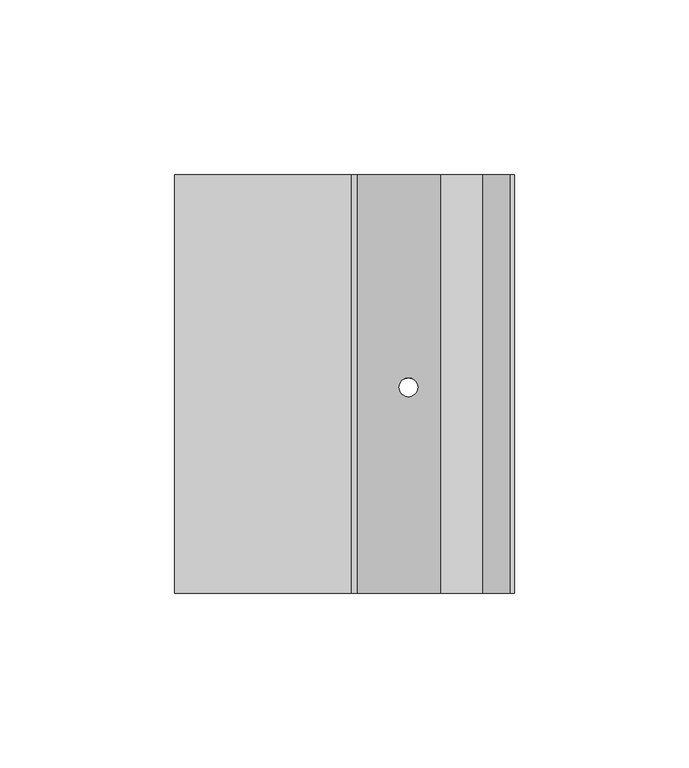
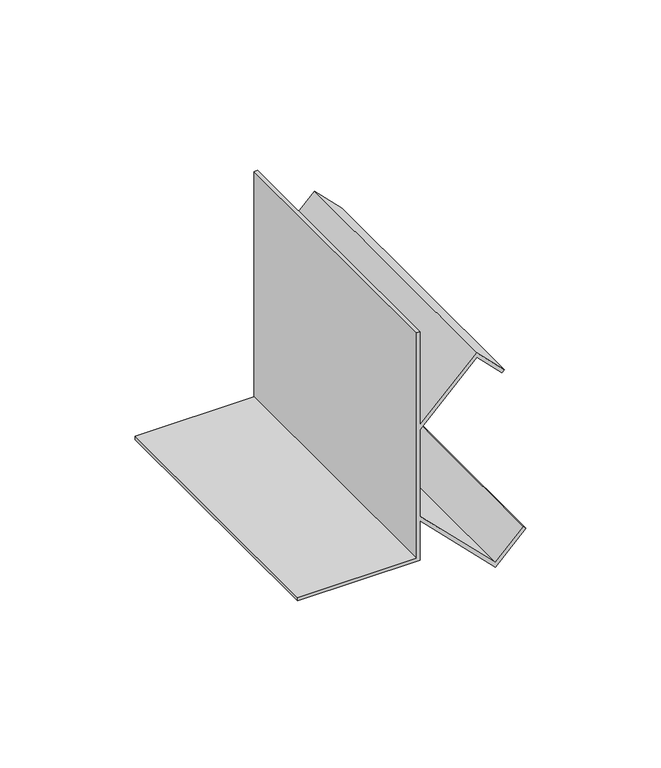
"""IFC4 building model written with IfcOpenShell, lengths in millimetres: proxy geometry, Mechanical Fittings & Accessories29 : Mechanical Fittings & Accessories."""

import ifcopenshell
import ifcopenshell.guid

model = None  # the IFC model being written
_history = None  # IfcOwnerHistory: only IFC2X3 demands one
_inside = {}  # id of a spatial element -> (the spatial element, [elements in it])
_under = {}  # id of a project, library or spatial element -> (it, [spatial elements below it])
_declared = {}  # id of a project -> (the project, [libraries it declares])
_typed = {}  # id of a type object -> (the type object, [elements of that type])
_made_of = {}  # id of a material, layer set ... -> (it, [elements and type objects made of it])


def new_model(schema):
    """Start an empty IFC model of exactly this schema.

    Asked for "IFC4X3", IfcOpenShell would pick the latest addendum, in which some entities
    have other attributes; the version numbers below select the first issue.
    IFC2X3 requires an IfcOwnerHistory on every rooted entity: one is made here for all.
    """
    global model, _history
    if schema == "IFC4X3":
        model = ifcopenshell.file(schema_version=(4, 3, 0, 0))
    else:
        model = ifcopenshell.file(schema=schema)
    _inside.clear()
    _under.clear()
    _declared.clear()
    _typed.clear()
    _made_of.clear()
    _history = None
    if model.schema == "IFC2X3":
        org = make("IfcOrganization", Name="unknown")
        user = make(
            "IfcPersonAndOrganization",
            ThePerson=make("IfcPerson", FamilyName="unknown"),
            TheOrganization=org,
        )
        app = make(
            "IfcApplication",
            ApplicationDeveloper=org,
            Version="unknown",
            ApplicationFullName="unknown",
            ApplicationIdentifier="unknown",
        )
        _history = make(
            "IfcOwnerHistory",
            OwningUser=user,
            OwningApplication=app,
            ChangeAction="ADDED",
            CreationDate=0,
        )
    return model


def make(cls, **values):
    """One entity of the class cls with the attributes given. An attribute that is None is left unset."""
    return model.create_entity(
        cls, **{name: value for name, value in values.items() if value is not None}
    )


def rooted(cls, **values):
    """An entity with a GlobalId (a new one), such as an element, a storey or a relation."""
    return make(cls, GlobalId=ifcopenshell.guid.new(), OwnerHistory=_history, **values)


def si_unit(unit_type, name, prefix=None):
    """IfcSIUnit, for example si_unit("LENGTHUNIT", "METRE", prefix="MILLI")."""
    return make("IfcSIUnit", UnitType=unit_type, Prefix=prefix, Name=name)


def assignment(units):
    """IfcUnitAssignment: the units of a project."""
    return None if units is None else make("IfcUnitAssignment", Units=units)


def point(xyz):
    """IfcCartesianPoint."""
    return None if xyz is None else make("IfcCartesianPoint", Coordinates=xyz)


def direction(xyz):
    """IfcDirection."""
    return None if xyz is None else make("IfcDirection", DirectionRatios=xyz)


def frame(location, z_axis=None, x_axis=None):
    """IfcAxis2Placement3D, a coordinate frame: its origin and axes. An axis left out is left unset."""
    return make(
        "IfcAxis2Placement3D",
        Location=point(location),
        Axis=direction(z_axis),
        RefDirection=direction(x_axis),
    )


def origin():
    """The frame at (0, 0, 0) with its axes left unset."""
    return frame((0.0, 0.0, 0.0))


def place(relative_to, where):
    """IfcLocalPlacement: puts the frame where relative to a parent placement (None: the world)."""
    return make(
        "IfcLocalPlacement", PlacementRelTo=relative_to, RelativePlacement=where
    )


def context(
    kind, dimensions, precision=None, world=None, true_north=None, identifier=None
):
    """IfcGeometricRepresentationContext, for example the 3D "Model" context."""
    return make(
        "IfcGeometricRepresentationContext",
        ContextIdentifier=identifier,
        ContextType=kind,
        CoordinateSpaceDimension=dimensions,
        Precision=precision,
        WorldCoordinateSystem=world,
        TrueNorth=true_north,
    )


def project(units=None, contexts=None):
    """IfcProject with its units and contexts."""
    return rooted(
        "IfcProject",
        Name="project",
        RepresentationContexts=contexts,
        UnitsInContext=assignment(units),
    )


def spatial(cls, under=None, at=None, **own):
    """A site, building, storey or space (cls), placed at a placement, below another one or the project."""
    s = rooted(cls, ObjectPlacement=at, **own)
    if under is not None:
        _under.setdefault(under.id(), (under, []))[1].append(s)
    return s


def polyline(points):
    """IfcPolyline through the points."""
    return make("IfcPolyline", Points=[point(p) for p in points])


def ellipse_curve(where, semi_axis1, semi_axis2):
    """IfcEllipse in the frame where."""
    return make(
        "IfcEllipse", Position=where, SemiAxis1=semi_axis1, SemiAxis2=semi_axis2
    )


def shape(context_of_items, identifier, shape_type, items):
    """IfcShapeRepresentation: the items that make up one representation, for example the "Body"."""
    return make(
        "IfcShapeRepresentation",
        ContextOfItems=context_of_items,
        RepresentationIdentifier=identifier,
        RepresentationType=shape_type,
        Items=items,
    )


def source(mapping_origin, context_of_items, identifier, shape_type, items):
    """IfcRepresentationMap: a shape defined once, which mapped items show again and again."""
    return make(
        "IfcRepresentationMap",
        MappingOrigin=mapping_origin,
        MappedRepresentation=shape(context_of_items, identifier, shape_type, items),
    )


def transform(
    local_origin,
    x_axis=None,
    y_axis=None,
    z_axis=None,
    scale=None,
    scale2=None,
    scale3=None,
    uniform=True,
):
    """IfcCartesianTransformationOperator3D, or its non-uniform kind. x_axis, y_axis, z_axis: its Axis1, 2, 3."""
    if uniform:
        return make(
            "IfcCartesianTransformationOperator3D",
            Axis1=direction(x_axis),
            Axis2=direction(y_axis),
            LocalOrigin=point(local_origin),
            Scale=scale,
            Axis3=direction(z_axis),
        )
    return make(
        "IfcCartesianTransformationOperator3DnonUniform",
        Axis1=direction(x_axis),
        Axis2=direction(y_axis),
        LocalOrigin=point(local_origin),
        Scale=scale,
        Axis3=direction(z_axis),
        Scale2=scale2,
        Scale3=scale3,
    )


def mapped(mapping_source, mapping_target):
    """IfcMappedItem: shows the shape of a source again, moved by a transform."""
    return make(
        "IfcMappedItem", MappingSource=mapping_source, MappingTarget=mapping_target
    )


def made_of(thing, what):
    """Note that an element or type object is made of a material, layer set ...; save() writes the relation."""
    if what is not None:
        _made_of.setdefault(what.id(), (what, []))[1].append(thing)
    return thing


def element(
    cls,
    number,
    at=None,
    inside=None,
    cuts=None,
    type_object=None,
    material=None,
    context=None,
    identifier="Body",
    shape_type=None,
    held_by="IfcProductDefinitionShape",
    body=None,
    shapes=None,
    **own,
):
    """One element of the class cls, such as IfcWall. Its Tag is "e" and its number.

    at: its placement. inside: the storey or other place that contains it. cuts: it is an
    opening in that element (IfcRelVoidsElement). A single representation is given by context,
    identifier, shape_type and body (its items); several are given by shapes. held_by: the class
    of the entity that holds the representations. save() writes the other relations.
    """
    e = rooted(cls, Tag="e%d" % number, ObjectPlacement=at, **own)
    if body is not None:
        shapes = [shape(context, identifier, shape_type, body)]
    if shapes is not None:
        e.Representation = make(held_by, Representations=shapes)
    if inside is not None:
        _inside.setdefault(inside.id(), (inside, []))[1].append(e)
    if cuts is not None:
        rooted(
            "IfcRelVoidsElement", RelatingBuildingElement=cuts, RelatedOpeningElement=e
        )
    if type_object is not None:
        _typed.setdefault(type_object.id(), (type_object, []))[1].append(e)
    return made_of(e, material)


def aggregate(whole, parts):
    """IfcRelAggregates: a whole, such as a stair, and the parts it consists of."""
    return rooted("IfcRelAggregates", RelatingObject=whole, RelatedObjects=parts)


def save(model, path):
    """Write the relations noted so far, then the file.

    IfcRelAggregates (storeys below a building ...), IfcRelContainedInSpatialStructure (elements
    in a storey), IfcRelDefinesByType, IfcRelAssociatesMaterial and IfcRelDeclares: one each for
    every whole, place, type object, material and project.
    """
    for whole, parts in _under.values():
        aggregate(whole, parts)
    for where, things in _inside.values():
        rooted(
            "IfcRelContainedInSpatialStructure",
            RelatedElements=things,
            RelatingStructure=where,
        )
    for kind, things in _typed.values():
        rooted("IfcRelDefinesByType", RelatedObjects=things, RelatingType=kind)
    for what, things in _made_of.values():
        rooted("IfcRelAssociatesMaterial", RelatedObjects=things, RelatingMaterial=what)
    for by, libraries in _declared.values():
        rooted("IfcRelDeclares", RelatingContext=by, RelatedDefinitions=libraries)
    model.write(path)


def plane_surface(at):
    """IfcPlane: the flat surface through the origin of the frame at, square to its z axis."""
    return make("IfcPlane", Position=at)


def revolved_surface(curve, axis_point, axis_direction):
    """IfcSurfaceOfRevolution: the curve turned about the line through axis_point along axis_direction."""
    return make(
        "IfcSurfaceOfRevolution",
        SweptCurve=make("IfcArbitraryOpenProfileDef", ProfileType="CURVE", Curve=curve),
        AxisPosition=make("IfcAxis1Placement", Location=point(axis_point), Axis=direction(axis_direction)),
    )


def advanced_brep(points, edges, surfaces, faces):
    """IfcAdvancedBrep: a solid bounded by faces that lie on surfaces and meet in shared edges.

    An edge is (start, end): straight between two places in points (the first is 0);
    or (start, end, curve); or (start, end, curve, False) where it runs against its curve.
    A face is (place in surfaces, loops), or (place, loops, False) where it looks against
    its surface's normal. A loop lists edges by number (the first is 1), with a minus sign
    where the edge is run from its end to its start. The first loop is the outer one.
    """
    corners = [point(p) for p in points]
    vertices = [make("IfcVertexPoint", VertexGeometry=c) for c in corners]
    made = []
    for start, end, *more in edges:
        made.append(
            make(
                "IfcEdgeCurve",
                EdgeStart=vertices[start],
                EdgeEnd=vertices[end],
                EdgeGeometry=more[0] if more else make("IfcPolyline", Points=[corners[start], corners[end]]),
                SameSense=more[1] if len(more) > 1 else True,
            )
        )
    hull = []
    for where, loops, *sense in faces:
        bounds = []
        for j, loop in enumerate(loops):
            ring = [make("IfcOrientedEdge", EdgeElement=made[abs(k) - 1], Orientation=k > 0) for k in loop]
            bounds.append(
                make(
                    "IfcFaceOuterBound" if j == 0 else "IfcFaceBound",
                    Bound=make("IfcEdgeLoop", EdgeList=ring),
                    Orientation=True,
                )
            )
        hull.append(make("IfcAdvancedFace", Bounds=bounds, FaceSurface=surfaces[where], SameSense=sense[0] if sense else True))
    return make("IfcAdvancedBrep", Outer=make("IfcClosedShell", CfsFaces=hull))


def generic_models_f2a02704(model_context):
    return source(origin(), model_context, "Body", "AdvancedBrep", [
        advanced_brep(
        [(-13439.8639562, 10780.4963986, 4114.8), (-13490.6639562, 10780.4963986, 4114.8), (-13490.6639562, 10780.4963986, 4113.3117188), (-13438.375675, 10780.4963986, 4113.3117188), (-13438.375675, 10780.4963986, 4131.1383509), (-13406.265914, 10780.4963986, 4099.0285899), (-13393.2869427, 10780.4963986, 4112.0075612), (-13394.3393164, 10780.4963986, 4113.059935), (-13406.265914, 10780.4963986, 4101.1333374), (-13438.375675, 10780.4963986, 4133.2430984), (-13438.375675, 10780.4963986, 4172.2761118), (-13414.203414, 10780.4963986, 4196.4483729), (-13403.4674414, 10780.4963986, 4185.7124003), (-13402.4150677, 10780.4963986, 4186.7647741), (-13414.203414, 10780.4963986, 4198.5531204), (-13438.375675, 10780.4963986, 4174.3808594), (-13438.375675, 10780.4963986, 4216.4), (-13439.8639562, 10780.4963986, 4216.4), (-13439.8639562, 10900.4645457, 4114.8), (-13439.8639562, 10900.4645457, 4216.4), (-13438.375675, 10900.4645457, 4216.4), (-13438.375675, 10900.4645457, 4174.3808594), (-13414.203414, 10900.4645457, 4198.5531204), (-13402.4150677, 10900.4645457, 4186.7647741), (-13403.4674414, 10900.4645457, 4185.7124003), (-13414.203414, 10900.4645457, 4196.4483729), (-13438.375675, 10900.4645457, 4172.2761118), (-13438.375675, 10900.4645457, 4133.2430984), (-13406.265914, 10900.4645457, 4101.1333374), (-13394.3393164, 10900.4645457, 4113.059935), (-13393.2869427, 10900.4645457, 4112.0075612), (-13406.265914, 10900.4645457, 4099.0285899), (-13438.375675, 10900.4645457, 4131.1383509), (-13438.375675, 10900.4645457, 4113.3117188), (-13490.6639562, 10900.4645457, 4113.3117188), (-13490.6639562, 10900.4645457, 4114.8), (-13426.2617646, 10839.5191481, 4119.0244406), (-13420.9223978, 10839.5191481, 4113.6850737), (-13420.9223978, 10839.5191481, 4115.7898213), (-13426.2617646, 10839.5191481, 4121.1291881), (-13426.2617646, 10839.5191481, 4184.3900222), (-13420.9223978, 10839.5191481, 4189.729389), (-13420.9223978, 10839.5191481, 4191.8341365), (-13426.2617646, 10839.5191481, 4186.4947697)],
        [
            (0, 1),
            (1, 2),
            (2, 3),
            (3, 4),
            (4, 5),
            (5, 6),
            (6, 7),
            (7, 8),
            (8, 9),
            (9, 10),
            (10, 11),
            (11, 12),
            (12, 13),
            (13, 14),
            (14, 15),
            (15, 16),
            (16, 17),
            (17, 0),
            (18, 19),
            (19, 20),
            (20, 21),
            (21, 22),
            (22, 23),
            (23, 24),
            (24, 25),
            (25, 26),
            (26, 27),
            (27, 28),
            (28, 29),
            (29, 30),
            (30, 31),
            (31, 32),
            (32, 33),
            (33, 34),
            (34, 35),
            (35, 18),
            (0, 18),
            (35, 1),
            (34, 2),
            (33, 3),
            (32, 4),
            (31, 5),
            (36, 37, ellipse_curve(frame((-13423.5920812, 10839.5191481, 4116.3547571), z_axis=(0.7071067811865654, 0.0, 0.7071067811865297), x_axis=(-0.7071067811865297, 0.0, 0.7071067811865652)), 3.7755025, 2.6696834)),
            (37, 36, ellipse_curve(frame((-13423.5920812, 10839.5191481, 4116.3547571), z_axis=(0.7071067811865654, 0.0, 0.7071067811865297), x_axis=(-0.7071067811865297, 0.0, 0.7071067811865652)), 3.7755025, 2.6696834)),
            (30, 6),
            (29, 7),
            (28, 8),
            (27, 9),
            (38, 39, ellipse_curve(frame((-13423.5920812, 10839.5191481, 4118.4595047), z_axis=(-0.7071067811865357, 0.0, -0.7071067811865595), x_axis=(-0.7071067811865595, 0.0, 0.7071067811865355)), 3.7755025, 2.6696834)),
            (39, 38, ellipse_curve(frame((-13423.5920812, 10839.5191481, 4118.4595047), z_axis=(-0.7071067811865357, 0.0, -0.7071067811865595), x_axis=(-0.7071067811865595, 0.0, 0.7071067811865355)), 3.7755025, 2.6696834)),
            (26, 10),
            (25, 11),
            (40, 41, ellipse_curve(frame((-13423.5920812, 10839.5191481, 4187.0597056), z_axis=(-0.7071067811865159, 0.0, 0.7071067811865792), x_axis=(0.7071067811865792, 0.0, 0.7071067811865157)), 3.7755025, 2.6696834)),
            (41, 40, ellipse_curve(frame((-13423.5920812, 10839.5191481, 4187.0597056), z_axis=(-0.7071067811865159, 0.0, 0.7071067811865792), x_axis=(0.7071067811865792, 0.0, 0.7071067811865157)), 3.7755025, 2.6696834)),
            (24, 12),
            (23, 13),
            (22, 14),
            (21, 15),
            (42, 43, ellipse_curve(frame((-13423.5920812, 10839.5191481, 4189.1644531), z_axis=(0.7071067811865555, 0.0, -0.7071067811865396), x_axis=(0.7071067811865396, 0.0, 0.7071067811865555)), 3.7755025, 2.6696834)),
            (43, 42, ellipse_curve(frame((-13423.5920812, 10839.5191481, 4189.1644531), z_axis=(0.7071067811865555, 0.0, -0.7071067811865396), x_axis=(0.7071067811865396, 0.0, 0.7071067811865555)), 3.7755025, 2.6696834)),
            (20, 16),
            (19, 17),
            (36, 39),
            (38, 37),
            (40, 43),
            (42, 41),
        ],
        [
            plane_surface(frame((-13490.6639562, 10780.4963986, 4114.8), z_axis=(0.0, -1.0, 0.0), x_axis=(-1.0, 0.0, 0.0))),
            plane_surface(frame((-13490.6639562, 10900.4645457, 4114.8), z_axis=(0.0, 1.0, 0.0), x_axis=(1.0, 0.0, 0.0))),
            plane_surface(frame((-13439.8639562, 10780.4963986, 4114.8), z_axis=(0.0, 0.0, 1.0), x_axis=(0.0, 1.0, 0.0))),
            plane_surface(frame((-13490.6639562, 10780.4963986, 4114.8), z_axis=(-1.0, 0.0, 0.0), x_axis=(0.0, 1.0, 0.0))),
            plane_surface(frame((-13490.6639562, 10780.4963986, 4113.3117188), z_axis=(0.0, 0.0, -1.0), x_axis=(0.0, 1.0, 0.0))),
            plane_surface(frame((-13438.375675, 10780.4963986, 4113.3117188), z_axis=(1.0, 0.0, 0.0), x_axis=(0.0, 1.0, 0.0))),
            plane_surface(frame((-13438.375675, 10780.4963986, 4131.1383509), z_axis=(-0.7071067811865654, 0.0, -0.7071067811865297), x_axis=(0.0, 1.0, 0.0))),
            plane_surface(frame((-13406.265914, 10780.4963986, 4099.0285899), z_axis=(0.7071067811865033, 0.0, -0.7071067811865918), x_axis=(0.0, 1.0, 0.0))),
            plane_surface(frame((-13393.2869427, 10780.4963986, 4112.0075612), z_axis=(0.7071067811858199, 0.0, 0.7071067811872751), x_axis=(0.0, 1.0, 0.0))),
            plane_surface(frame((-13394.3393164, 10780.4963986, 4113.059935), z_axis=(-0.7071067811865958, 0.0, 0.7071067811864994), x_axis=(0.0, 1.0, 0.0))),
            plane_surface(frame((-13406.265914, 10780.4963986, 4101.1333374), z_axis=(0.7071067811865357, 0.0, 0.7071067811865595), x_axis=(0.0, 1.0, 0.0))),
            plane_surface(frame((-13438.375675, 10780.4963986, 4133.2430984), z_axis=(1.0, 0.0, 0.0), x_axis=(0.0, 1.0, 0.0))),
            plane_surface(frame((-13438.375675, 10780.4963986, 4172.2761118), z_axis=(0.7071067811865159, 0.0, -0.7071067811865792), x_axis=(0.0, 1.0, 0.0))),
            plane_surface(frame((-13414.203414, 10780.4963986, 4196.4483729), z_axis=(-0.7071067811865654, 0.0, -0.7071067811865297), x_axis=(0.0, 1.0, 0.0))),
            plane_surface(frame((-13403.4674414, 10780.4963986, 4185.7124003), z_axis=(0.7071067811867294, 0.0, -0.7071067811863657), x_axis=(0.0, 1.0, 0.0))),
            plane_surface(frame((-13402.4150677, 10780.4963986, 4186.7647741), z_axis=(0.7071067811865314, 0.0, 0.7071067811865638), x_axis=(0.0, 1.0, 0.0))),
            plane_surface(frame((-13414.203414, 10780.4963986, 4198.5531204), z_axis=(-0.7071067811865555, 0.0, 0.7071067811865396), x_axis=(0.0, 1.0, 0.0))),
            plane_surface(frame((-13438.375675, 10780.4963986, 4174.3808594), z_axis=(1.0, 0.0, 0.0), x_axis=(0.0, 1.0, 0.0))),
            plane_surface(frame((-13438.375675, 10780.4963986, 4216.4), z_axis=(0.0, 0.0, 1.0), x_axis=(0.0, 1.0, 0.0))),
            plane_surface(frame((-13439.8639562, 10780.4963986, 4216.4), z_axis=(-1.0, 0.0, 0.0), x_axis=(0.0, 1.0, 0.0))),
            revolved_surface(polyline([(-13420.9223978, 10839.5191481, 4121.129188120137), (-13420.9223978, 10839.5191481, 4113.685073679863)]), (-13423.5920812, 10839.5191481, 4097.2034211), (0.0, 0.0, 1.0)),
            revolved_surface(polyline([(-13420.9223978, 10839.5191481, 4191.834136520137), (-13420.9223978, 10839.5191481, 4184.390022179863)]), (-13423.5920812, 10839.5191481, 4097.2034211), (0.0, 0.0, 1.0)),
        ],
        [
            (0, [[1, 2, 3, 4, 5, 6, 7, 8, 9, 10, 11, 12, 13, 14, 15, 16, 17, 18]]),
            (1, [[19, 20, 21, 22, 23, 24, 25, 26, 27, 28, 29, 30, 31, 32, 33, 34, 35, 36]]),
            (2, [[-1, 37, -36, 38]]),
            (3, [[-2, -38, -35, 39]]),
            (4, [[-3, -39, -34, 40]]),
            (5, [[-4, -40, -33, 41]]),
            (6, [[-5, -41, -32, 42], [43, 44]]),
            (7, [[-6, -42, -31, 45]]),
            (8, [[-7, -45, -30, 46]]),
            (9, [[-8, -46, -29, 47]]),
            (10, [[-9, -47, -28, 48], [49, 50]]),
            (11, [[-10, -48, -27, 51]]),
            (12, [[-11, -51, -26, 52], [53, 54]]),
            (13, [[-12, -52, -25, 55]]),
            (14, [[-13, -55, -24, 56]]),
            (15, [[-14, -56, -23, 57]]),
            (16, [[-15, -57, -22, 58], [59, 60]]),
            (17, [[-16, -58, -21, 61]]),
            (18, [[-17, -61, -20, 62]]),
            (19, [[-18, -62, -19, -37]]),
            (20, [[63, -49, 64, -43]]),
            (21, [[65, -59, 66, -53]]),
            (20, [[-63, -44, -64, -50]]),
            (21, [[-65, -54, -66, -60]]),
        ],
    ),
    ])


if __name__ == "__main__":
    model = new_model("IFC4")
    model_context = context("Model", 3, world=origin())
    ifc_project = project(units=[si_unit("LENGTHUNIT", "METRE", prefix="MILLI")], contexts=[model_context])
    site = spatial("IfcSite", under=ifc_project)
    building = spatial("IfcBuilding", under=site)
    placement = place(None, origin())
    generic_models_shape = generic_models_f2a02704(model_context)
    element("IfcBuildingElementProxy", 1, Name="Mechanical Fittings & Accessories29 : Mechanical Fittings & Accessories", ObjectType="Mechanical Fittings & Accessories29 : Mechanical Fittings & Accessories", at=placement, inside=building, context=model_context, shape_type="MappedRepresentation", body=[
        mapped(generic_models_shape, transform((0.0, 0.0, 0.0), x_axis=(1.0, 0.0, 0.0), y_axis=(0.0, 1.0, 0.0), z_axis=(0.0, 0.0, 1.0))),
    ])
    save(model, "model.ifc")
